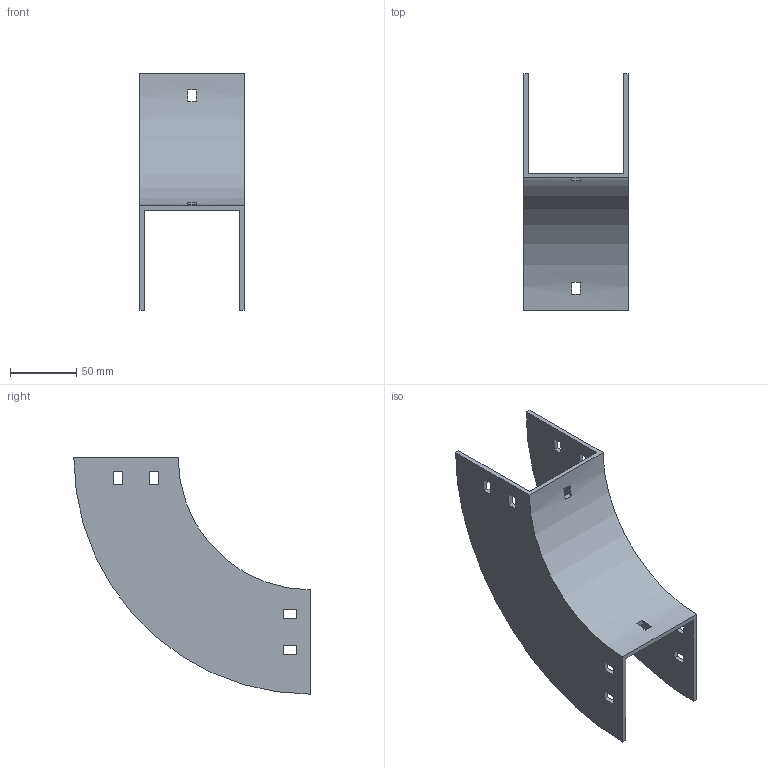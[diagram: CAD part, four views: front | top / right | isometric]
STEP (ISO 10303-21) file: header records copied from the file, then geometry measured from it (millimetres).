
FILE_DESCRIPTION (( 'STEP AP214' ), '1' );
FILE_NAME ('33B1C075.step', '2025-02-21T09:32:24', ( '' ), ( '' ), 'SwSTEP 2.0', 'SolidWorks 2023', '' );
FILE_SCHEMA (( 'AUTOMOTIVE_DESIGN' ));
Length unit declared in the file: millimetre
Products named in the file (1): 33B1C075
Bounding box: 79 x 179 x 179 mm (x, y, z)
Volume: 159078.4 mm3; surface area: 95632.9 mm2
Topology: 1 solids, 1 shells, 50 faces, 144 edges, 96 vertices
Faces by surface type: plane 46, cylinder 4
Entity records: 1687 total; most frequent: CARTESIAN_POINT 291, ORIENTED_EDGE 288, DIRECTION 262, EDGE_CURVE 144, VECTOR 128, LINE 128, VERTEX_POINT 96, EDGE_LOOP 70
